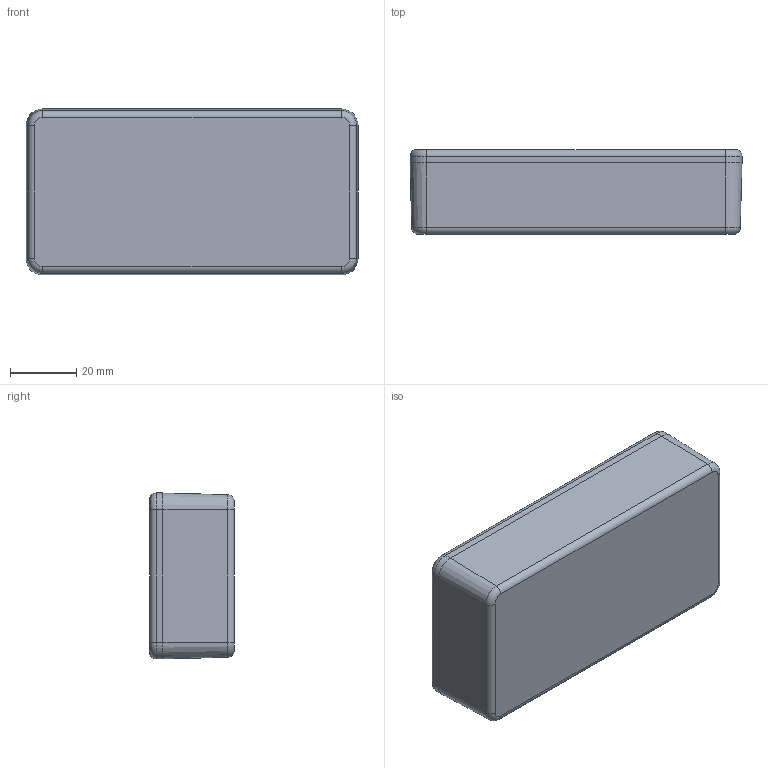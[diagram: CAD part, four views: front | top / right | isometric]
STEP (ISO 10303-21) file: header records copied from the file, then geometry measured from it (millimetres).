
FILE_DESCRIPTION(/* description */ (''),/* implementation_level */ '2;1');
FILE_NAME(/* name */ 'E:\Eng\Customer Service\Drawings\1590\STEP\1590G\1590G.iam.stp',/* time_stamp */ '2014-07-28T13:48:11-04:00',/* author */ ('avernon'),/* organization */ (''),/* preprocessor_version */ 'ST-DEVELOPER v15.2',/* originating_system */ 'Autodesk Inventor 2014',/* authorisation */ '');
FILE_SCHEMA (('AUTOMOTIVE_DESIGN { 1 0 10303 214 3 1 1 }'));
Products named in the file (4): 1590G Box; 1590G Lid; #12865; 1590G
Bounding box: 100 x 25.5 x 50 mm (x, y, z)
Volume: 37076.8 mm3; surface area: 34687.7 mm2
Topology: 6 solids, 6 shells, 472 faces, 1232 edges, 784 vertices
Faces by surface type: plane 243, bspline 93, cylinder 88, cone 28, torus 12, sphere 8
Full cylindrical faces by diameter (mm): 2.642 x4, 3.378 x4, 3.5 x4, 4 x4
Entity records: 12869 total; most frequent: CARTESIAN_POINT 3715, ORIENTED_EDGE 1982, DIRECTION 1640, EDGE_CURVE 991, VERTEX_POINT 643, LINE 606, VECTOR 606, AXIS2_PLACEMENT_3D 517
